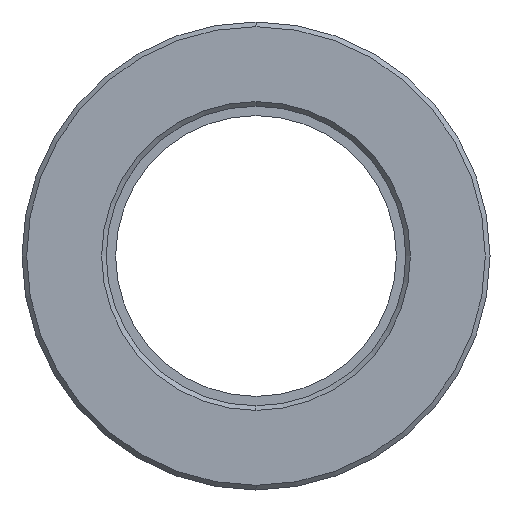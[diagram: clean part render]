
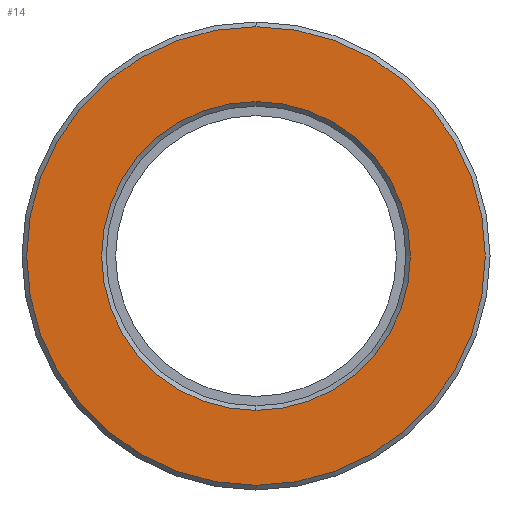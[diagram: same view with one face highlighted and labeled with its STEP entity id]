
A CAD part, left-side view. The second image highlights one B-rep face of the part: STEP entity #14.
In plain terms, the highlighted planar face has unit normal (-1, 0, 0).
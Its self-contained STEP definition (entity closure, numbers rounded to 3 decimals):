
#2 = DIRECTION ( 'NONE',  ( -1., 0., 0. ) ) ;
#14 = ADVANCED_FACE ( 'NONE', ( #298, #693 ), #93, .F. ) ;
#17 = DIRECTION ( 'NONE',  ( 1., 0., 0. ) ) ;
#43 = DIRECTION ( 'NONE',  ( -1., 0., 0. ) ) ;
#52 = EDGE_LOOP ( 'NONE', ( #1279, #1293 ) ) ;
#77 = EDGE_CURVE ( 'NONE', #894, #204, #786, .T. ) ;
#93 = PLANE ( 'NONE',  #1124 ) ;
#103 = DIRECTION ( 'NONE',  ( 0., 0., -1. ) ) ;
#110 = CARTESIAN_POINT ( 'NONE',  ( 0., 15., 0. ) ) ;
#204 = VERTEX_POINT ( 'NONE', #935 ) ;
#211 = EDGE_CURVE ( 'NONE', #841, #537, #619, .T. ) ;
#217 = CIRCLE ( 'NONE', #998, 24.5 ) ;
#298 = FACE_OUTER_BOUND ( 'NONE', #52, .T. ) ;
#312 = DIRECTION ( 'NONE',  ( 0., 0., -1. ) ) ;
#330 = EDGE_LOOP ( 'NONE', ( #750, #358 ) ) ;
#358 = ORIENTED_EDGE ( 'NONE', *, *, #77, .T. ) ;
#434 = AXIS2_PLACEMENT_3D ( 'NONE', #627, #43, #312 ) ;
#497 = CARTESIAN_POINT ( 'NONE',  ( 0., 0., -16.5 ) ) ;
#526 = EDGE_CURVE ( 'NONE', #537, #841, #217, .T. ) ;
#537 = VERTEX_POINT ( 'NONE', #797 ) ;
#565 = CIRCLE ( 'NONE', #1172, 16.5 ) ;
#619 = CIRCLE ( 'NONE', #434, 24.5 ) ;
#627 = CARTESIAN_POINT ( 'NONE',  ( 0., 0., 0. ) ) ;
#693 = FACE_BOUND ( 'NONE', #330, .T. ) ;
#750 = ORIENTED_EDGE ( 'NONE', *, *, #1214, .T. ) ;
#786 = CIRCLE ( 'NONE', #978, 16.5 ) ;
#788 = CARTESIAN_POINT ( 'NONE',  ( 0., 0., 0. ) ) ;
#797 = CARTESIAN_POINT ( 'NONE',  ( 0., 0., 24.5 ) ) ;
#798 = DIRECTION ( 'NONE',  ( 0., 0., -1. ) ) ;
#841 = VERTEX_POINT ( 'NONE', #875 ) ;
#875 = CARTESIAN_POINT ( 'NONE',  ( 0., 0., -24.5 ) ) ;
#893 = CARTESIAN_POINT ( 'NONE',  ( 0., 0., 0. ) ) ;
#894 = VERTEX_POINT ( 'NONE', #497 ) ;
#904 = DIRECTION ( 'NONE',  ( 1., 0., 0. ) ) ;
#935 = CARTESIAN_POINT ( 'NONE',  ( 0., 0., 16.5 ) ) ;
#978 = AXIS2_PLACEMENT_3D ( 'NONE', #1081, #1001, #798 ) ;
#998 = AXIS2_PLACEMENT_3D ( 'NONE', #788, #2, #103 ) ;
#1001 = DIRECTION ( 'NONE',  ( 1., 0., 0. ) ) ;
#1081 = CARTESIAN_POINT ( 'NONE',  ( 0., 0., 0. ) ) ;
#1088 = DIRECTION ( 'NONE',  ( 0., 0., -1. ) ) ;
#1124 = AXIS2_PLACEMENT_3D ( 'NONE', #110, #904, #1088 ) ;
#1172 = AXIS2_PLACEMENT_3D ( 'NONE', #893, #17, #1188 ) ;
#1188 = DIRECTION ( 'NONE',  ( 0., 0., -1. ) ) ;
#1214 = EDGE_CURVE ( 'NONE', #204, #894, #565, .T. ) ;
#1279 = ORIENTED_EDGE ( 'NONE', *, *, #211, .T. ) ;
#1293 = ORIENTED_EDGE ( 'NONE', *, *, #526, .T. ) ;
